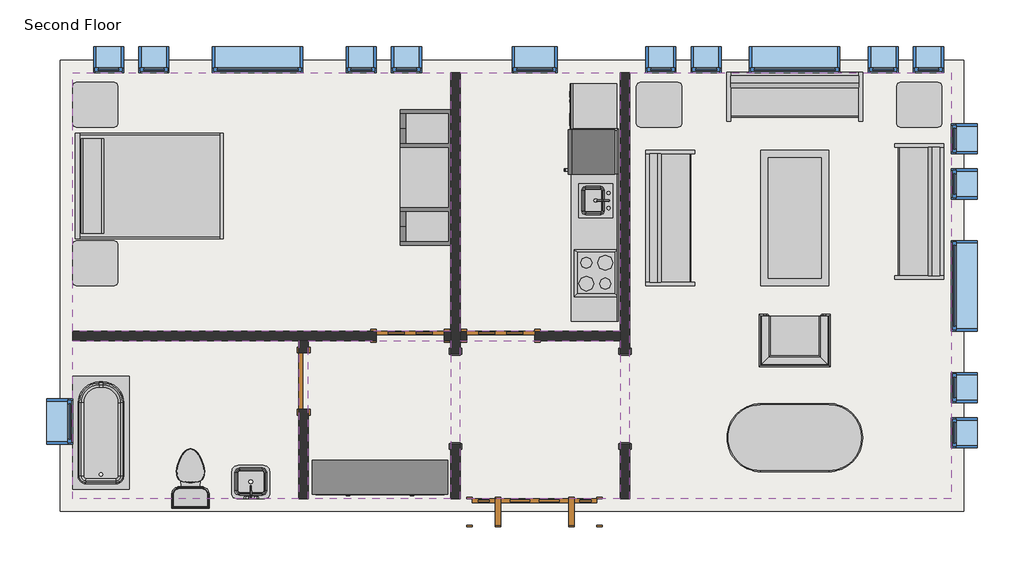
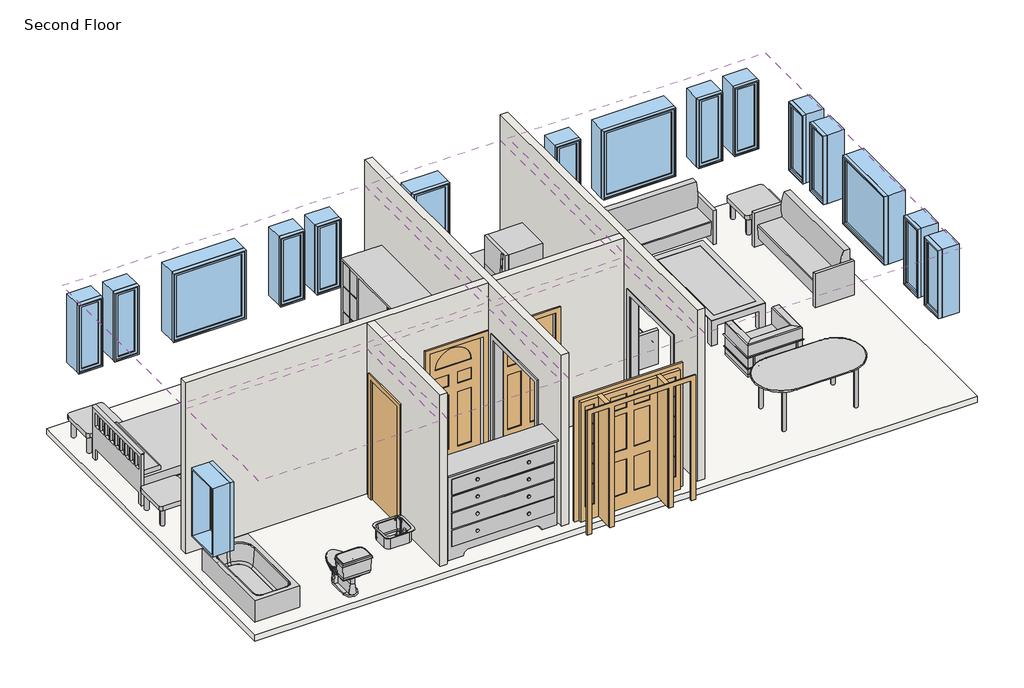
# One storey: 17 windows, 14 furniture elements, 6 coverings, 6 proxies, 5 walls, 4 doors, 4 flow terminals, 1 slab.
"""IFC4 building model written with IfcOpenShell, lengths in millimetres."""

from ifc_helpers import new_model, si_unit, frame, origin, place, context, project, spatial, polyline, outline, extrude, faceted_brep, transform, mapped, element, save
from components import proxy_dfcd9396, proxy_3c49123c, proxy_7a545507, proxy_f44482cc, proxy_ec3341c2, door_829da954, door_2e3b4da2, door_4d6c7550, door_dba5aa2e, flow_terminal_41332a36, flow_terminal_62a433f7, toilet_domestic_3d_toilet_domestic_3d_f7549cf7, toilet_domestic_3d_toilet_domestic_3d_183bbd19, tub_rectangular_3d_tub_rectangular_3d_15036965, furniture_096e7f55, chair_corbu_chair_corbu_2764bdef, furniture_6db689a5, furniture_7c473f12, furniture_cf0b6580, furniture_a4ffab56, furniture_cd93a443, furniture_2c34a4f9, furniture_3a588284, window_da97879f, window_d61ef850, window_60baf983, window_6eb97611

model = new_model("IFC4")

# Units and contexts
model_context = context("Model", 3, world=origin())
ifc_project = project(units=[si_unit("LENGTHUNIT", "METRE", prefix="MILLI")], contexts=[model_context])

# Site, building, storey
site = spatial("IfcSite", under=ifc_project)
building = spatial("IfcBuilding", under=site)
storey = spatial("IfcBuildingStorey", under=building, Name="Second Floor", Elevation=3048.0)

# Proxies
placement = place(None, origin())
proxy_shape = proxy_dfcd9396(model_context)
element("IfcBuildingElementProxy", 1, Name="Cook Top-4 Unit2 : 22\" x 20\"", ObjectType="Cook Top-4 Unit2 : 22\" x 20\"", at=placement, inside=storey, context=model_context, shape_type="MappedRepresentation", body=[
    mapped(proxy_shape, transform((-4167.1589563, 7568.5224391, 3048.0), x_axis=(0.0, 1.0000000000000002, 0.0), y_axis=(-1.0000000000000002, 0.0, 0.0), z_axis=(0.0, 0.0, 1.0))),
])
proxy_2_shape = proxy_3c49123c(model_context)
element("IfcBuildingElementProxy", 2, Name="Dishwasher : 24\" x 24\" x 34\"", ObjectType="Dishwasher : 24\" x 24\" x 34\"", at=placement, inside=storey, context=model_context, shape_type="MappedRepresentation", body=[
    mapped(proxy_2_shape, transform((-4459.0085211, 9434.1049706, 3048.0), x_axis=(0.0, 1.0000000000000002, 0.0), y_axis=(-1.0000000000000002, 0.0, 0.0), z_axis=(0.0, 0.0, 1.0))),
])
proxy_3_shape = proxy_7a545507(model_context)
element("IfcBuildingElementProxy", 3, Name="Kitchenette - Medium : 8'6\"", ObjectType="Kitchenette - Medium : 8'6\"", at=placement, inside=storey, context=model_context, shape_type="MappedRepresentation", body=[
    mapped(proxy_3_shape, transform((-3862.3589563, 8197.4847342, 3048.0), x_axis=(0.0, 1.0000000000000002, 0.0), y_axis=(-1.0000000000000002, 0.0, 0.0), z_axis=(0.0, 0.0, 1.0))),
])
proxy_4_shape = proxy_f44482cc(model_context)
element("IfcBuildingElementProxy", 4, Name="Opening-Cased : 48\" x 84\"", ObjectType="Opening-Cased : 48\" x 84\"", at=placement, inside=storey, context=model_context, shape_type="MappedRepresentation", body=[
    mapped(proxy_4_shape, transform((-3773.4589563, 5882.4203434, 3048.0), x_axis=(0.0, 1.0, 0.0), y_axis=(-1.0, 0.0, 0.0), z_axis=(0.0, 0.0, 1.0))),
])
element("IfcBuildingElementProxy", 5, Name="Opening-Cased : 48\" x 84\"", ObjectType="Opening-Cased : 48\" x 84\"", at=placement, inside=storey, context=model_context, shape_type="MappedRepresentation", body=[
    mapped(proxy_4_shape, transform((-6059.4589563, 5866.04303, 3048.0), x_axis=(0.0, -1.0, 0.0), y_axis=(1.0, 0.0, 0.0), z_axis=(0.0, 0.0, 1.0))),
])
proxy_5_shape = proxy_ec3341c2(model_context)
element("IfcBuildingElementProxy", 6, Name="Refrigerator : 24\" x 25\" LH", ObjectType="Refrigerator : 24\" x 25\" LH", at=placement, inside=storey, context=model_context, shape_type="MappedRepresentation", body=[
    mapped(proxy_5_shape, transform((-4212.8079278, 9200.4724391, 3048.0), x_axis=(0.0, 1.0000000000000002, 0.0), y_axis=(-1.0000000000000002, 0.0, 0.0), z_axis=(0.0, 0.0, 1.0))),
])

# Coverings
element("IfcCovering", 7, ObjectType="GWB on Mtl. Stud", at=placement, inside=storey, context=model_context, shape_type="SweptSolid", body=[
    extrude(outline(polyline([(-11217.2464563, 10270.0191867), (-6122.9589563, 10270.0191867), (-6122.9589563, 6787.0441867), (-11217.2464563, 6787.0441867), (-11217.2464563, 10270.0191867)])), frame((0.0, 0.0, 5638.8), z_axis=(0.0, 0.0, 1.0), x_axis=(1.0, 0.0, 0.0)), (0.0, 0.0, 1.0), 107.95),
])
element("IfcCovering", 8, ObjectType="GWB on Mtl. Stud", at=placement, inside=storey, context=model_context, shape_type="SweptSolid", body=[
    extrude(outline(polyline([(-5995.9589563, 6787.0441867), (-5995.9589563, 10270.0191867), (-3836.9589563, 10270.0191867), (-3836.9589563, 6787.0441867), (-5995.9589563, 6787.0441867)])), frame((0.0, 0.0, 5638.8), z_axis=(0.0, 0.0, 1.0), x_axis=(1.0, 0.0, 0.0)), (0.0, 0.0, 1.0), 107.95),
])
element("IfcCovering", 9, ObjectType="GWB on Mtl. Stud", at=placement, inside=storey, context=model_context, shape_type="SweptSolid", body=[
    extrude(outline(polyline([(-3709.9589563, 4526.4441867), (-3709.9589563, 10270.0191867), (622.3285437, 10270.0191867), (622.3285437, 4526.4441867), (-3709.9589563, 4526.4441867)])), frame((0.0, 0.0, 5638.8), z_axis=(0.0, 0.0, 1.0), x_axis=(1.0, 0.0, 0.0)), (0.0, 0.0, 1.0), 107.95),
])
element("IfcCovering", 10, ObjectType="GWB on Mtl. Stud", at=placement, inside=storey, context=model_context, shape_type="SweptSolid", body=[
    extrude(outline(polyline([(-3836.9589563, 4526.4441867), (-5995.9589563, 4526.4441867), (-5995.9589563, 6660.0441867), (-3836.9589563, 6660.0441867), (-3836.9589563, 4526.4441867)])), frame((0.0, 0.0, 5638.8), z_axis=(0.0, 0.0, 1.0), x_axis=(1.0, 0.0, 0.0)), (0.0, 0.0, 1.0), 107.95),
])
element("IfcCovering", 11, ObjectType="GWB on Mtl. Stud", at=placement, inside=storey, context=model_context, shape_type="SweptSolid", body=[
    extrude(outline(polyline([(-8169.2464563, 6660.0441867), (-8169.2464563, 4526.4441867), (-11217.2464563, 4526.4441867), (-11217.2464563, 6660.0441867), (-8169.2464563, 6660.0441867)])), frame((0.0, 0.0, 5638.8), z_axis=(0.0, 0.0, 1.0), x_axis=(1.0, 0.0, 0.0)), (0.0, 0.0, 1.0), 107.95),
])
element("IfcCovering", 12, ObjectType="GWB on Mtl. Stud", at=placement, inside=storey, context=model_context, shape_type="SweptSolid", body=[
    extrude(outline(polyline([(-6122.9589563, 4526.4441867), (-8042.2464563, 4526.4441867), (-8042.2464563, 6660.0441867), (-6122.9589563, 6660.0441867), (-6122.9589563, 4526.4441867)])), frame((0.0, 0.0, 5638.8), z_axis=(0.0, 0.0, 1.0), x_axis=(1.0, 0.0, 0.0)), (0.0, 0.0, 1.0), 107.95),
])

# Doors
door_shape = door_829da954(model_context)
element("IfcDoor", 13, ObjectType="Single-Decorative 2 : 36\" x 84\"", at=placement, inside=storey, context=model_context, shape_type="MappedRepresentation", body=[
    mapped(door_shape, transform((-5449.8589563, 6723.5441867, 3048.0), x_axis=(-1.0, 0.0, 0.0), y_axis=(0.0, -1.0, 0.0), z_axis=(0.0, 0.0, 1.0))),
])
door_2_shape = door_2e3b4da2(model_context)
element("IfcDoor", 14, ObjectType="Single-Decorative 2 : 36\" x 84\"", at=placement, inside=storey, context=model_context, shape_type="MappedRepresentation", body=[
    mapped(door_2_shape, transform((-6669.0589563, 6723.5441867, 3048.0), x_axis=(1.0, 0.0, 0.0), y_axis=(0.0, 1.0, 0.0), z_axis=(0.0, 0.0, 1.0))),
])
door_3_shape = door_4d6c7550(model_context)
element("IfcDoor", 15, ObjectType="Single-Flush : 30\" x 84\"", at=placement, inside=storey, context=model_context, shape_type="MappedRepresentation", body=[
    mapped(door_3_shape, transform((-8105.7464563, 6113.9441867, 3048.0), x_axis=(0.0, 1.0, 0.0), y_axis=(-1.0, 0.0, 0.0), z_axis=(0.0, 0.0, 1.0))),
])
door_4_shape = door_dba5aa2e(model_context)
element("IfcDoor", 16, ObjectType="Single-Raised Panel with Sidelights : 36\" x 84\"", at=placement, inside=storey, context=model_context, shape_type="MappedRepresentation", body=[
    mapped(door_4_shape, transform((-4992.6589563, 4350.2316867, 3048.0), x_axis=(-1.0, 0.0, 0.0), y_axis=(0.0, -1.0, 0.0), z_axis=(0.0, 0.0, 1.0))),
])

# Flow terminals
flow_terminal_shape = flow_terminal_41332a36(model_context)
element("IfcFlowTerminal", 17, ObjectType="Sink Kitchen-Island : 18\" x 18\"", at=placement, inside=storey, context=model_context, shape_type="MappedRepresentation", body=[
    mapped(flow_terminal_shape, transform((-4169.5043574, 8530.7331986, 3033.6), x_axis=(0.0, 1.0000000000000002, 0.0), y_axis=(-1.0000000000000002, 0.0, 0.0), z_axis=(0.0, 0.0, 1.0))),
])
flow_terminal_2_shape = flow_terminal_62a433f7(model_context)
element("IfcFlowTerminal", 18, ObjectType="Sink Vanity-Square : 20\" x 18\"", at=placement, inside=storey, context=model_context, shape_type="MappedRepresentation", body=[
    mapped(flow_terminal_2_shape, transform((-8801.2572158, 4706.5895878, 3048.0), x_axis=(-1.0, 0.0, 0.0), y_axis=(0.0, -1.0, 0.0), z_axis=(0.0, 0.0, 1.0))),
])
toilet_domestic_3d_toilet_domestic_3d_shape = toilet_domestic_3d_toilet_domestic_3d_f7549cf7(model_context)
toilet_domestic_3d_toilet_domestic_3d_2_shape = toilet_domestic_3d_toilet_domestic_3d_183bbd19(model_context)
element("IfcFlowTerminal", 19, ObjectType="Toilet-Domestic-3D : Toilet-Domestic-3D", at=placement, inside=storey, context=model_context, shape_type="MappedRepresentation", body=[
    mapped(toilet_domestic_3d_toilet_domestic_3d_shape, transform((-9629.7464563, 4894.7441867, 3048.0), x_axis=(-1.0, 0.0, 0.0), y_axis=(0.0, -1.0, 0.0), z_axis=(0.0, 0.0, 1.0))),
    mapped(toilet_domestic_3d_toilet_domestic_3d_2_shape, transform((-9629.7464563, 4894.7441867, 3048.0), x_axis=(-1.0, 0.0, 0.0), y_axis=(0.0, -1.0, 0.0), z_axis=(0.0, 0.0, 1.0))),
])
tub_rectangular_3d_tub_rectangular_3d_shape = tub_rectangular_3d_tub_rectangular_3d_15036965(model_context)
element("IfcFlowTerminal", 20, ObjectType="Tub-Rectangular-3D : Tub-Rectangular-3D", at=placement, inside=storey, context=model_context, shape_type="MappedRepresentation", body=[
    mapped(tub_rectangular_3d_tub_rectangular_3d_shape, transform((-11393.4589563, 5765.6346554, 3048.0), x_axis=(0.0, 1.0, 0.0), y_axis=(-1.0, 0.0, 0.0), z_axis=(0.0, 0.0, 1.0))),
])

# Furniture
furniture_shape = furniture_096e7f55(model_context)
element("IfcFurniture", 21, ObjectType="Bed-Shaker : Double 56\" x 78\"", at=placement, inside=storey, context=model_context, shape_type="MappedRepresentation", body=[
    mapped(furniture_shape, transform((-11172.0857802, 8763.4816867, 3048.0), x_axis=(0.0, 1.0, 0.0), y_axis=(-1.0, 0.0, 0.0), z_axis=(0.0, 0.0, 1.0))),
])
chair_corbu_chair_corbu_shape = chair_corbu_chair_corbu_2764bdef(model_context)
element("IfcFurniture", 22, ObjectType="Chair-Corbu : Chair-Corbu", at=placement, inside=storey, context=model_context, shape_type="MappedRepresentation", body=[
    mapped(chair_corbu_chair_corbu_shape, transform((-914.0851858, 7126.8212359, 3048.0), x_axis=(-1.0, 0.0, 0.0), y_axis=(0.0, -1.0, 0.0), z_axis=(0.0, 0.0, 1.0))),
])
furniture_2_shape = furniture_6db689a5(model_context)
element("IfcFurniture", 23, ObjectType="Counter Top w Sink Hole : 24\" Depth", at=placement, inside=storey, context=model_context, shape_type="MappedRepresentation", body=[
    mapped(furniture_2_shape, transform((-3862.3589563, 8121.2847342, 3033.6), x_axis=(0.0, 1.0000000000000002, 0.0), y_axis=(-1.0000000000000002, 0.0, 0.0), z_axis=(0.0, 0.0, 1.0))),
])
furniture_3_shape = furniture_7c473f12(model_context)
element("IfcFurniture", 24, ObjectType="Dresser : 72\" x 60\" x 18\"", at=placement, inside=storey, context=model_context, shape_type="MappedRepresentation", body=[
    mapped(furniture_3_shape, transform((-6806.2656965, 5181.7071408, 3048.0), x_axis=(1.0, 0.0, 0.0), y_axis=(0.0, 1.0, 0.0), z_axis=(0.0, 0.0, 1.0))),
])
furniture_4_shape = furniture_cf0b6580(model_context)
element("IfcFurniture", 25, ObjectType="Entertainment Center : 72\" x 72\" x 24\"", at=placement, inside=storey, context=model_context, shape_type="MappedRepresentation", body=[
    mapped(furniture_4_shape, transform((-6021.3589563, 8857.1441867, 3048.0), x_axis=(0.0, -1.0, 0.0), y_axis=(1.0, 0.0, 0.0), z_axis=(0.0, 0.0, 1.0))),
])
furniture_5_shape = furniture_a4ffab56(model_context)
element("IfcFurniture", 26, ObjectType="Sofa : 72\"", at=placement, inside=storey, context=model_context, shape_type="MappedRepresentation", body=[
    mapped(furniture_5_shape, transform((-3017.704858, 8242.2611949, 3048.0), x_axis=(0.0, 1.0, 0.0), y_axis=(-1.0, 0.0, 0.0), z_axis=(0.0, 0.0, 1.0))),
])
element("IfcFurniture", 27, ObjectType="Sofa : 72\"", at=placement, inside=storey, context=model_context, shape_type="MappedRepresentation", body=[
    mapped(furniture_5_shape, transform((-1557.8294481, 9801.5748071, 3048.0), x_axis=(1.0, 0.0, 0.0), y_axis=(0.0, 1.0, 0.0), z_axis=(0.0, 0.0, 1.0))),
])
element("IfcFurniture", 28, ObjectType="Sofa : 72\"", at=placement, inside=storey, context=model_context, shape_type="MappedRepresentation", body=[
    mapped(furniture_5_shape, transform((42.7869453, 8470.3146785, 3048.0), x_axis=(0.0, -1.0, 0.0), y_axis=(1.0, 0.0, 0.0), z_axis=(0.0, 0.0, 1.0))),
])
furniture_6_shape = furniture_cd93a443(model_context)
element("IfcFurniture", 29, ObjectType="Table-Coffee : 36\" x 72\" x 18\"", at=placement, inside=storey, context=model_context, shape_type="MappedRepresentation", body=[
    mapped(furniture_6_shape, transform((-1392.2478785, 8294.36592, 3048.0), x_axis=(0.0, 1.0, 0.0), y_axis=(-1.0, 0.0, 0.0), z_axis=(0.0, 0.0, 1.0))),
])
furniture_7_shape = furniture_2c34a4f9(model_context)
element("IfcFurniture", 30, ObjectType="Table-Dining Oval : 36\" x 72\"", at=placement, inside=storey, context=model_context, shape_type="MappedRepresentation", body=[
    mapped(furniture_7_shape, transform((-1085.6392842, 5710.0425473, 3048.0), x_axis=(1.0, 0.0, 0.0), y_axis=(0.0, 1.0, 0.0), z_axis=(0.0, 0.0, 1.0))),
])
furniture_8_shape = furniture_3a588284(model_context)
element("IfcFurniture", 31, ObjectType="Table-End : 24\" x 24\"", at=placement, inside=storey, context=model_context, shape_type="MappedRepresentation", body=[
    mapped(furniture_8_shape, transform((-119.5925866, 9684.2316867, 3048.0), x_axis=(1.0, 0.0, 0.0), y_axis=(0.0, 1.0, 0.0), z_axis=(0.0, 0.0, 1.0))),
])
element("IfcFurniture", 32, ObjectType="Table-End : 24\" x 24\"", at=placement, inside=storey, context=model_context, shape_type="MappedRepresentation", body=[
    mapped(furniture_8_shape, transform((-11220.9800866, 7550.6316867, 3048.0), x_axis=(1.0, 0.0, 0.0), y_axis=(0.0, 1.0, 0.0), z_axis=(0.0, 0.0, 1.0))),
])
element("IfcFurniture", 33, ObjectType="Table-End : 24\" x 24\"", at=placement, inside=storey, context=model_context, shape_type="MappedRepresentation", body=[
    mapped(furniture_8_shape, transform((-11220.9800866, 9684.2316867, 3048.0), x_axis=(1.0, 0.0, 0.0), y_axis=(0.0, 1.0, 0.0), z_axis=(0.0, 0.0, 1.0))),
])
element("IfcFurniture", 34, ObjectType="Table-End : 24\" x 24\"", at=placement, inside=storey, context=model_context, shape_type="MappedRepresentation", body=[
    mapped(furniture_8_shape, transform((-3624.7925866, 9684.2316867, 3048.0), x_axis=(1.0, 0.0, 0.0), y_axis=(0.0, 1.0, 0.0), z_axis=(0.0, 0.0, 1.0))),
])

# Slab
element("IfcSlab", 35, ObjectType="LW Concrete on Metal Deck", at=placement, inside=storey, context=model_context, shape_type="SweptSolid", body=[
    extrude(outline(polyline([(787.4285437, 10435.1191867), (787.4285437, 4361.3441867), (-11382.3464563, 4361.3441867), (-11382.3464563, 10435.1191867), (787.4285437, 10435.1191867)])), frame((0.0, 0.0, 2943.225), z_axis=(0.0, 0.0, 1.0), x_axis=(1.0, 0.0, 0.0)), (0.0, 0.0, 1.0), 104.775),
])

# Walls
element("IfcWall", 36, ObjectType="Interior - 5\" Partition (2-hr)", at=placement, inside=storey, context=model_context, shape_type="Brep", body=[
    faceted_brep([(-3709.9589563, 10270.0191867, 3048.0), (-3709.9589563, 6483.8316867, 3048.0), (-3836.9589563, 6483.8316867, 3048.0), (-3836.9589563, 6660.0441867, 3048.0), (-3836.9589563, 6787.0441867, 3048.0), (-3836.9589563, 10270.0191867, 3048.0), (-3709.9589563, 5264.6316867, 3048.0), (-3709.9589563, 4526.4441867, 3048.0), (-3836.9589563, 4526.4441867, 3048.0), (-3836.9589563, 5264.6316867, 3048.0), (-3836.9589563, 10270.0191867, 6096.0), (-3836.9589563, 6787.0441867, 6096.0), (-3836.9589563, 6660.0441867, 6096.0), (-3836.9589563, 4526.4441867, 6096.0), (-3709.9589563, 4526.4441867, 6096.0), (-3709.9589563, 10270.0191867, 6096.0), (-3836.9589563, 6483.8316867, 5181.6), (-3836.9589563, 5264.6316867, 5181.6), (-3709.9589563, 6483.8316867, 5181.6), (-3709.9589563, 5264.6316867, 5181.6)], [[[0, 1, 2, 3, 4, 5]], [[6, 7, 8, 9]], [[10, 11, 12, 13, 14, 15]], [[5, 4, 3, 2, 16, 17, 9, 8, 13, 12, 11, 10]], [[18, 1, 0, 15, 14, 7, 6, 19]], [[5, 10, 15, 0]], [[13, 8, 7, 14]], [[9, 17, 19, 6]], [[16, 2, 1, 18]], [[17, 16, 18, 19]]]),
])
element("IfcWall", 37, ObjectType="Interior - 5\" Partition (2-hr)", at=placement, inside=storey, context=model_context, shape_type="Brep", body=[
    faceted_brep([(-6122.9589563, 4526.4441867, 3048.0), (-6122.9589563, 5264.6316867, 3048.0), (-5995.9589563, 5264.6316867, 3048.0), (-5995.9589563, 4526.4441867, 3048.0), (-6122.9589563, 6483.8316867, 3048.0), (-6122.9589563, 6660.0441867, 3048.0), (-6122.9589563, 6787.0441867, 3048.0), (-6122.9589563, 10270.0191867, 3048.0), (-5995.9589563, 10270.0191867, 3048.0), (-5995.9589563, 6787.0441867, 3048.0), (-5995.9589563, 6660.0441867, 3048.0), (-5995.9589563, 6483.8316867, 3048.0), (-6122.9589563, 10270.0191867, 6096.0), (-6122.9589563, 6787.0441867, 6096.0), (-6122.9589563, 6660.0441867, 6096.0), (-6122.9589563, 4526.4441867, 6096.0), (-5995.9589563, 4526.4441867, 6096.0), (-5995.9589563, 6660.0441867, 6096.0), (-5995.9589563, 6787.0441867, 6096.0), (-5995.9589563, 10270.0191867, 6096.0), (-6122.9589563, 5264.6316867, 5181.6), (-6122.9589563, 6483.8316867, 5181.6), (-5995.9589563, 5264.6316867, 5181.6), (-5995.9589563, 6483.8316867, 5181.6)], [[[0, 1, 2, 3]], [[4, 5, 6, 7, 8, 9, 10, 11]], [[12, 13, 14, 15, 16, 17, 18, 19]], [[20, 1, 0, 15, 14, 13, 12, 7, 6, 5, 4, 21]], [[3, 2, 22, 23, 11, 10, 9, 8, 19, 18, 17, 16]], [[7, 12, 19, 8]], [[15, 0, 3, 16]], [[11, 23, 21, 4]], [[22, 2, 1, 20]], [[23, 22, 20, 21]]]),
])
element("IfcWall", 38, ObjectType="Interior - 5\" Partition (2-hr)", at=placement, inside=storey, context=model_context, shape_type="Brep", body=[
    faceted_brep([(-6122.9589563, 6660.0441867, 3048.0), (-6211.8589563, 6660.0441867, 3048.0), (-6211.8589563, 6787.0441867, 3048.0), (-6122.9589563, 6787.0441867, 3048.0), (-7126.2589563, 6660.0441867, 3048.0), (-8042.2464563, 6660.0441867, 3048.0), (-8169.2464563, 6660.0441867, 3048.0), (-11217.2464563, 6660.0441867, 3048.0), (-11217.2464563, 6787.0441867, 3048.0), (-7126.2589563, 6787.0441867, 3048.0), (-11217.2464563, 6660.0441867, 6096.0), (-8169.2464563, 6660.0441867, 6096.0), (-8042.2464563, 6660.0441867, 6096.0), (-6122.9589563, 6660.0441867, 6096.0), (-6122.9589563, 6787.0441867, 6096.0), (-11217.2464563, 6787.0441867, 6096.0), (-6211.8589563, 6660.0441867, 5181.6), (-7126.2589563, 6660.0441867, 5181.6), (-6211.8589563, 6787.0441867, 5181.6), (-7126.2589563, 6787.0441867, 5181.6)], [[[0, 1, 2, 3]], [[4, 5, 6, 7, 8, 9]], [[10, 11, 12, 13, 14, 15]], [[16, 1, 0, 13, 12, 11, 10, 7, 6, 5, 4, 17]], [[3, 2, 18, 19, 9, 8, 15, 14]], [[13, 0, 3, 14]], [[7, 10, 15, 8]], [[18, 2, 1, 16]], [[19, 18, 16, 17]], [[9, 19, 17, 4]]]),
])
element("IfcWall", 39, ObjectType="Interior - 5\" Partition (2-hr)", at=placement, inside=storey, context=model_context, shape_type="SweptSolid", body=[
    extrude(outline(polyline([(6660.0441867, 3048.0), (6494.9441867, 3048.0), (6494.9441867, 5181.6), (5732.9441867, 5181.6), (5732.9441867, 3048.0), (4526.4441867, 3048.0), (4526.4441867, 6096.0), (6660.0441867, 6096.0), (6660.0441867, 3048.0)])), frame((-8169.2464563, 0.0, 0.0), z_axis=(1.0, 0.0, 0.0), x_axis=(0.0, 1.0, 0.0)), (0.0, 0.0, 1.0), 127.0),
])
element("IfcWall", 40, ObjectType="Interior - 5\" Partition (2-hr)", at=placement, inside=storey, context=model_context, shape_type="SweptSolid", body=[
    extrude(outline(polyline([(3048.0, -5995.9589563), (3048.0, -5907.0589563), (5181.6, -5907.0589563), (5181.6, -4992.6589563), (3048.0, -4992.6589563), (3048.0, -3836.9589563), (6096.0, -3836.9589563), (6096.0, -5995.9589563), (3048.0, -5995.9589563)])), frame((0.0, 6660.0441867, 0.0), z_axis=(0.0, 1.0, 0.0), x_axis=(0.0, 0.0, 1.0)), (0.0, 0.0, 1.0), 127.0),
])

# Windows
window_shape = window_da97879f(model_context)
element("IfcWindow", 41, ObjectType="Fixed : 16\" x 48\"", at=placement, inside=storey, context=model_context, shape_type="MappedRepresentation", body=[
    mapped(window_shape, transform((-10771.1589563, 10446.2316867, 3048.0), x_axis=(-1.0, 0.0, 0.0), y_axis=(0.0, -1.0, 0.0), z_axis=(0.0, 0.0, 1.0))),
])
element("IfcWindow", 42, ObjectType="Fixed : 16\" x 48\"", at=placement, inside=storey, context=model_context, shape_type="MappedRepresentation", body=[
    mapped(window_shape, transform((-10161.5589563, 10446.2316867, 3048.0), x_axis=(-1.0, 0.0, 0.0), y_axis=(0.0, -1.0, 0.0), z_axis=(0.0, 0.0, 1.0))),
])
element("IfcWindow", 43, ObjectType="Fixed : 16\" x 48\"", at=placement, inside=storey, context=model_context, shape_type="MappedRepresentation", body=[
    mapped(window_shape, transform((-3328.9589563, 10446.2316867, 3048.0), x_axis=(-1.0, 0.0, 0.0), y_axis=(0.0, -1.0, 0.0), z_axis=(0.0, 0.0, 1.0))),
])
element("IfcWindow", 44, ObjectType="Fixed : 16\" x 48\"", at=placement, inside=storey, context=model_context, shape_type="MappedRepresentation", body=[
    mapped(window_shape, transform((-2719.3589563, 10446.2316867, 3048.0), x_axis=(-1.0, 0.0, 0.0), y_axis=(0.0, -1.0, 0.0), z_axis=(0.0, 0.0, 1.0))),
])
element("IfcWindow", 45, ObjectType="Fixed : 16\" x 48\"", at=placement, inside=storey, context=model_context, shape_type="MappedRepresentation", body=[
    mapped(window_shape, transform((798.5410437, 9417.5316867, 3048.0), x_axis=(0.0, 1.0, 0.0), y_axis=(-1.0, 0.0, 0.0), z_axis=(0.0, 0.0, 1.0))),
])
element("IfcWindow", 46, ObjectType="Fixed : 16\" x 48\"", at=placement, inside=storey, context=model_context, shape_type="MappedRepresentation", body=[
    mapped(window_shape, transform((798.5410437, 8807.9316867, 3048.0), x_axis=(0.0, 1.0, 0.0), y_axis=(-1.0, 0.0, 0.0), z_axis=(0.0, 0.0, 1.0))),
])
window_2_shape = window_d61ef850(model_context)
element("IfcWindow", 47, ObjectType="Fixed : 16\" x 48\"", at=placement, inside=storey, context=model_context, shape_type="MappedRepresentation", body=[
    mapped(window_2_shape, transform((-6681.7589563, 10446.2316867, 3048.0), x_axis=(1.0, 0.0, 0.0), y_axis=(0.0, 1.0, 0.0), z_axis=(0.0, 0.0, 1.0))),
])
element("IfcWindow", 48, ObjectType="Fixed : 16\" x 48\"", at=placement, inside=storey, context=model_context, shape_type="MappedRepresentation", body=[
    mapped(window_2_shape, transform((-7291.3589563, 10446.2316867, 3048.0), x_axis=(1.0, 0.0, 0.0), y_axis=(0.0, 1.0, 0.0), z_axis=(0.0, 0.0, 1.0))),
])
element("IfcWindow", 49, ObjectType="Fixed : 16\" x 48\"", at=placement, inside=storey, context=model_context, shape_type="MappedRepresentation", body=[
    mapped(window_2_shape, transform((354.0410437, 10446.2316867, 3048.0), x_axis=(1.0, 0.0, 0.0), y_axis=(0.0, 1.0, 0.0), z_axis=(0.0, 0.0, 1.0))),
])
element("IfcWindow", 50, ObjectType="Fixed : 16\" x 48\"", at=placement, inside=storey, context=model_context, shape_type="MappedRepresentation", body=[
    mapped(window_2_shape, transform((-255.5589563, 10446.2316867, 3048.0), x_axis=(1.0, 0.0, 0.0), y_axis=(0.0, 1.0, 0.0), z_axis=(0.0, 0.0, 1.0))),
])
element("IfcWindow", 51, ObjectType="Fixed : 16\" x 48\"", at=placement, inside=storey, context=model_context, shape_type="MappedRepresentation", body=[
    mapped(window_2_shape, transform((798.5410437, 5378.9316867, 3048.0), x_axis=(0.0, -1.0, 0.0), y_axis=(1.0, 0.0, 0.0), z_axis=(0.0, 0.0, 1.0))),
])
element("IfcWindow", 52, ObjectType="Fixed : 16\" x 48\"", at=placement, inside=storey, context=model_context, shape_type="MappedRepresentation", body=[
    mapped(window_2_shape, transform((798.5410437, 5988.5316867, 3048.0), x_axis=(0.0, -1.0, 0.0), y_axis=(1.0, 0.0, 0.0), z_axis=(0.0, 0.0, 1.0))),
])
window_3_shape = window_60baf983(model_context)
element("IfcWindow", 53, ObjectType="Fixed : 24\" x 48\"", at=placement, inside=storey, context=model_context, shape_type="MappedRepresentation", body=[
    mapped(window_3_shape, transform((-5030.7589563, 10446.2316867, 3048.0), x_axis=(-1.0, 0.0, 0.0), y_axis=(0.0, -1.0, 0.0), z_axis=(0.0, 0.0, 1.0))),
])
element("IfcWindow", 54, ObjectType="Fixed : 24\" x 48\"", at=placement, inside=storey, context=model_context, shape_type="MappedRepresentation", body=[
    mapped(window_3_shape, transform((-11393.4589563, 5531.3316867, 3048.0), x_axis=(0.0, -1.0, 0.0), y_axis=(1.0, 0.0, 0.0), z_axis=(0.0, 0.0, 1.0))),
])
window_4_shape = window_6eb97611(model_context)
element("IfcWindow", 55, ObjectType="Fixed : 48\" x 48\"", at=placement, inside=storey, context=model_context, shape_type="MappedRepresentation", body=[
    mapped(window_4_shape, transform((-8764.5589563, 10446.2316867, 3048.0), x_axis=(-1.0, 0.0, 0.0), y_axis=(0.0, -1.0, 0.0), z_axis=(0.0, 0.0, 1.0))),
])
element("IfcWindow", 56, ObjectType="Fixed : 48\" x 48\"", at=placement, inside=storey, context=model_context, shape_type="MappedRepresentation", body=[
    mapped(window_4_shape, transform((-1525.5589563, 10446.2316867, 3048.0), x_axis=(-1.0, 0.0, 0.0), y_axis=(0.0, -1.0, 0.0), z_axis=(0.0, 0.0, 1.0))),
])
element("IfcWindow", 57, ObjectType="Fixed : 48\" x 48\"", at=placement, inside=storey, context=model_context, shape_type="MappedRepresentation", body=[
    mapped(window_4_shape, transform((798.5410437, 7436.3316867, 3048.0), x_axis=(0.0, 1.0, 0.0), y_axis=(-1.0, 0.0, 0.0), z_axis=(0.0, 0.0, 1.0))),
])

save(model, "model.ifc")
